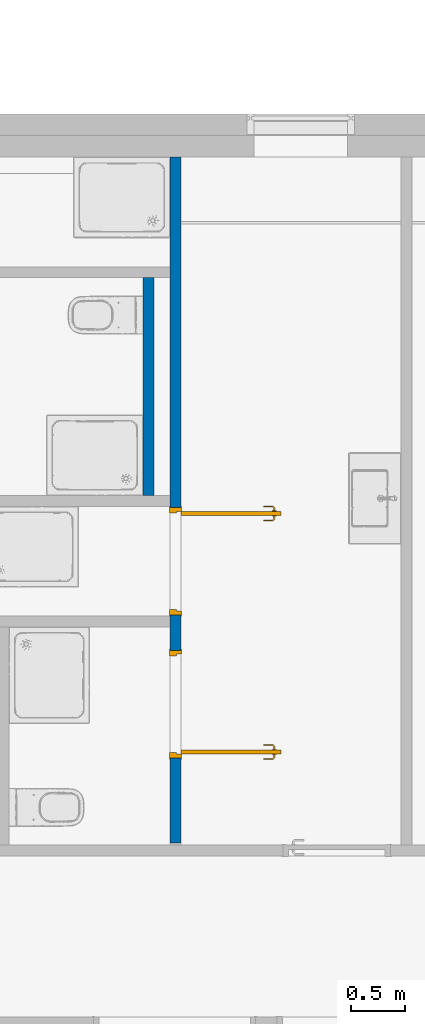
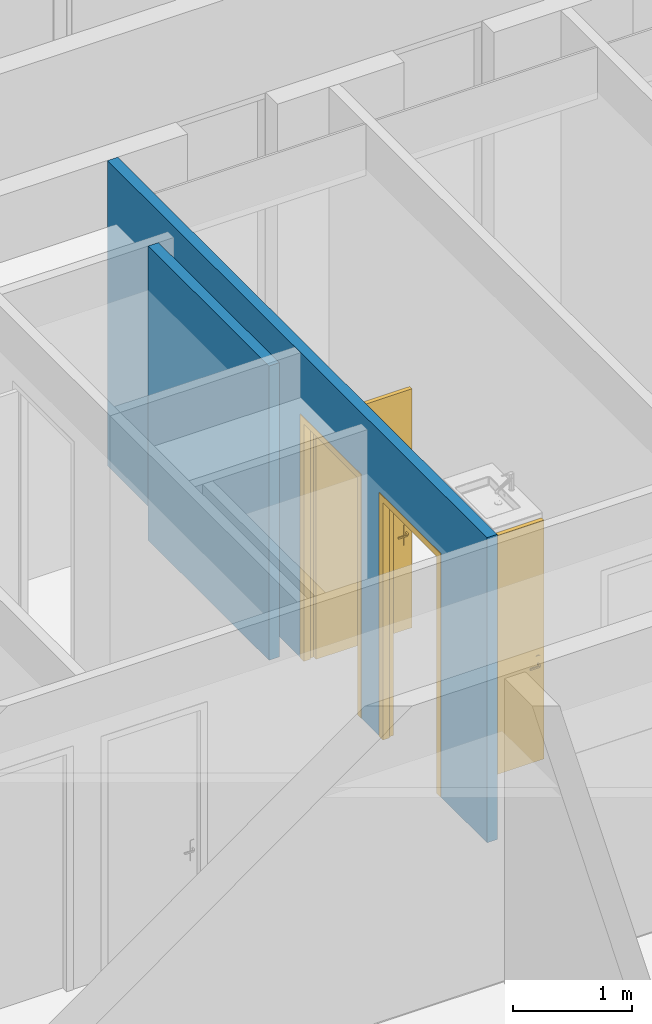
# One storey, part 111 of 240: 2 doors, 2 walls, 2 openings.
"""IFC2X3 building model written with IfcOpenShell, lengths in centimetres."""

from ifc_helpers import new_model, entity, si_unit, converted_unit, derived_unit, direction, frame, frame_2d, origin, place, context, subcontext, project, spatial, polyline, rectangle, extrude, clip, bounded_halfspace, faceted_brep, source, transform, mapped, material, material_list, layer, layer_set, layer_usage, type_object, type_shapes, element, fill, save


model = new_model("IFC2X3")

# Units and contexts
model_context = context("Model", 3, precision=0.001, world=origin(), true_north=direction((6.12303176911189e-17, 1.0)))
body_context = subcontext(model_context, "Body", "Model", "MODEL_VIEW")
ifc_project = project(units=[si_unit("LENGTHUNIT", "METRE", prefix="CENTI"), si_unit("AREAUNIT", "SQUARE_METRE"), si_unit("VOLUMEUNIT", "CUBIC_METRE"), converted_unit("PLANEANGLEUNIT", "DEGREE", entity("IfcRatioMeasure", 0.0174532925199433), si_unit("PLANEANGLEUNIT", "RADIAN"), dimensions=[0, 0, 0, 0, 0, 0, 0]), si_unit("MASSUNIT", "GRAM", prefix="KILO"), derived_unit("MASSDENSITYUNIT", [(si_unit("MASSUNIT", "GRAM", prefix="KILO"), 1), (si_unit("LENGTHUNIT", "METRE"), -3)]), si_unit("TIMEUNIT", "SECOND"), si_unit("FREQUENCYUNIT", "HERTZ"), si_unit("THERMODYNAMICTEMPERATUREUNIT", "DEGREE_CELSIUS"), derived_unit("THERMALTRANSMITTANCEUNIT", [(si_unit("MASSUNIT", "GRAM", prefix="KILO"), 1), (si_unit("THERMODYNAMICTEMPERATUREUNIT", "KELVIN"), -1), (si_unit("TIMEUNIT", "SECOND"), -3)]), derived_unit("VOLUMETRICFLOWRATEUNIT", [(si_unit("LENGTHUNIT", "METRE"), 3), (si_unit("TIMEUNIT", "SECOND"), -1)]), si_unit("ELECTRICCURRENTUNIT", "AMPERE"), si_unit("ELECTRICVOLTAGEUNIT", "VOLT"), si_unit("POWERUNIT", "WATT"), si_unit("FORCEUNIT", "NEWTON", prefix="KILO"), si_unit("ILLUMINANCEUNIT", "LUX"), si_unit("LUMINOUSFLUXUNIT", "LUMEN"), si_unit("LUMINOUSINTENSITYUNIT", "CANDELA"), derived_unit("USERDEFINED", [(si_unit("MASSUNIT", "GRAM", prefix="KILO"), -1), (si_unit("LENGTHUNIT", "METRE"), -2), (si_unit("TIMEUNIT", "SECOND"), 3), (si_unit("LUMINOUSFLUXUNIT", "LUMEN"), 1)]), derived_unit("LINEARVELOCITYUNIT", [(si_unit("LENGTHUNIT", "METRE"), 1), (si_unit("TIMEUNIT", "SECOND"), -1)]), si_unit("PRESSUREUNIT", "PASCAL"), derived_unit("USERDEFINED", [(si_unit("LENGTHUNIT", "METRE"), -2), (si_unit("MASSUNIT", "GRAM", prefix="KILO"), 1), (si_unit("TIMEUNIT", "SECOND"), -2)])], contexts=[model_context])

# Site, building, storey
site_placement = place(None, frame((-2781.94577612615, 7442.24238424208, 0.0)))
site = spatial("IfcSite", under=ifc_project, at=site_placement, Name="Default", CompositionType="ELEMENT")
building_placement = place(site_placement, origin())
building = spatial("IfcBuilding", under=site, at=building_placement, CompositionType="ELEMENT")
storey_placement = place(building_placement, origin())
storey = spatial("IfcBuildingStorey", under=building, at=storey_placement, Name="N00 - COO", CompositionType="ELEMENT", Elevation=0.0)

# Wall
ifc_material_1 = material(Name="01 - Enduit/Plâtre")
ifc_layer_1 = layer(ifc_material_1, 1.3)
ifc_material_2 = material(Name="00 - Isolant")
ifc_layer_2 = layer(ifc_material_2, 7.4)
ifc_layer_3 = layer(ifc_material_1, 1.3)
ifc_layer_set = layer_set([ifc_layer_1, ifc_layer_2, ifc_layer_3], Name="Mur de base:06 - cloisons - Ba13 10cm")
ifc_layer_usage_1 = layer_usage(ifc_layer_set, "AXIS2", "NEGATIVE", 5.0)
wall_type = type_object("IfcWallType", Name="Mur de base:06 - cloisons - Ba13 10cm", PredefinedType="STANDARD", material=ifc_layer_set)
wall_1_placement = place(building_placement, frame((-10124.4998776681, -1222.0, 0.0), z_axis=(0.0, 0.0, 1.0), x_axis=(0.0, -1.0, 0.0)))
element("IfcWallStandardCase", 1, at=wall_1_placement, inside=storey, type_object=wall_type, material=ifc_layer_usage_1, Name="Mur de base:06 - cloisons - Ba13 10cm", ObjectType="Mur de base:06 - cloisons - Ba13 10cm", context=body_context, shape_type="SweptSolid", body=[
    extrude(rectangle(XDim=203.0, YDim=10.0000000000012, at=frame_2d((101.5, 0.0), x_axis=(-1.0, 0.0))), origin(), (0.0, 0.0, 1.0), 302.0),
])

# Wall, openings, doors
ifc_layer_usage_2 = layer_usage(ifc_layer_set, "AXIS2", "NEGATIVE", 5.0)
wall_2_placement = place(building_placement, frame((-10099.4998776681, -1110.0, 0.0), z_axis=(0.0, 0.0, 1.0), x_axis=(0.0, -1.0, 0.0)))
wall_2 = element("IfcWallStandardCase", 2, at=wall_2_placement, inside=storey, type_object=wall_type, material=ifc_layer_usage_2, Name="Mur de base:06 - cloisons - Ba13 10cm", ObjectType="Mur de base:06 - cloisons - Ba13 10cm", context=body_context, shape_type="Clipping", body=[
    clip(extrude(rectangle(XDim=638.000000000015, YDim=10.0000000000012, at=frame_2d((319.000000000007, 1.06581410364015e-14), x_axis=(-1.0, 0.0))), origin(), (0.0, 0.0, 1.0), 313.0), bounded_halfspace(frame((0.0, -5.0, 0.0), z_axis=(1.0, 0.0, 0.0), x_axis=(0.0, 1.0, 0.0)), True, frame((0.0, -5.0, 0.0), z_axis=(1.0, 0.0, 0.0), x_axis=(0.0, 1.0, 0.0)), polyline([(0.0, 0.0), (10.0, 0.0), (10.0, 313.0), (0.0, 313.0), (0.0, 0.0)]))),
])
opening_1_placement = place(wall_2_placement, frame((459.0, -5.0, 0.0)))
opening_1 = element("IfcOpeningElement", 3, at=opening_1_placement, cuts=wall_2, Name="Int. Simple:PP simple (0.93m x 2.50m):1", ObjectType="Opening", context=body_context, shape_type="SweptSolid", body=[
    extrude(rectangle(XDim=248.500000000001, YDim=99.9999999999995, at=frame_2d((124.250000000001, 49.9999999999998), x_axis=(1.0, 0.0))), frame((0.0, 0.0, 0.0), z_axis=(0.0, 1.0, 0.0), x_axis=(0.0, 0.0, 1.0)), (0.0, 0.0, 1.0), 10.0),
])
opening_2_placement = place(wall_2_placement, frame((326.0, -5.0, 0.0)))
opening_2 = element("IfcOpeningElement", 4, at=opening_2_placement, cuts=wall_2, Name="Int. Simple:PP simple (0.93m x 2.50m):1", ObjectType="Opening", context=body_context, shape_type="SweptSolid", body=[
    extrude(rectangle(XDim=248.500000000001, YDim=99.9999999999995, at=frame_2d((124.250000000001, 49.9999999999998), x_axis=(1.0, 0.0))), frame((0.0, 0.0, 0.0), z_axis=(0.0, 1.0, 0.0), x_axis=(0.0, 0.0, 1.0)), (0.0, 0.0, 1.0), 10.0),
])
ifc_material_3 = material(Name="Finition Peinture - Blanc satiné")
ifc_material_4 = material(Name="Bois - Panneau de porte")
ifc_material_5 = material(Name="Bois - Cadre de porte")
ifc_material_list_1 = material_list([ifc_material_3, ifc_material_4, ifc_material_5])
ifc_material_list_2 = material_list([ifc_material_3, ifc_material_4, ifc_material_5])
door_style_1 = type_object("IfcDoorStyle", Name="PP simple (0.93m x 2.50m)", ConstructionType="NOTDEFINED", OperationType="SINGLE_SWING_RIGHT", ParameterTakesPrecedence=False, Sizeable=False, material=ifc_material_list_2)
shared_shape_1 = source(origin(), body_context, "Body", "Brep", [
    faceted_brep([(10.0, -89.0, 87.0), (10.0, -89.0, 108.0), (10.0, -88.0352761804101, 108.399601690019), (10.0, -87.0, 108.535898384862), (10.0, -85.96472381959, 108.399601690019), (10.0, -85.0, 108.0), (10.0, -85.0, 87.0), (10.0, -85.9647238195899, 86.6003983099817), (10.0, -87.0, 86.464101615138), (10.0, -88.03527618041, 86.6003983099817), (10.500000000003, -89.0, 108.0), (10.500000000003, -89.0, 87.0), (10.500000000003, -88.03527618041, 86.6003983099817), (10.500000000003, -87.0, 86.464101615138), (10.500000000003, -85.9647238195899, 86.6003983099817), (10.500000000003, -85.0, 87.0), (10.500000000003, -85.0, 108.0), (10.500000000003, -85.96472381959, 108.399601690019), (10.500000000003, -87.0, 108.535898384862), (10.500000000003, -88.0352761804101, 108.399601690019)], [[[0, 1, 2, 3, 4, 5, 6, 7, 8, 9]], [[10, 11, 12, 13, 14, 15, 16, 17, 18, 19]], [[9, 12, 11, 0]], [[8, 13, 12, 9]], [[7, 14, 13, 8]], [[7, 6, 15, 14]], [[15, 6, 5, 16]], [[4, 17, 16, 5]], [[3, 18, 17, 4]], [[2, 19, 18, 3]], [[2, 1, 10, 19]], [[11, 10, 1, 0]]]),
    faceted_brep([(14.500000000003, -89.0, 87.0), (14.500000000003, -89.0, 108.0), (14.500000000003, -88.0352761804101, 108.399601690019), (14.500000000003, -87.0, 108.535898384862), (14.500000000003, -85.96472381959, 108.399601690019), (14.500000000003, -85.0, 108.0), (14.500000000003, -85.0, 87.0), (14.500000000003, -85.9647238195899, 86.6003983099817), (14.500000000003, -87.0, 86.464101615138), (14.500000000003, -88.03527618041, 86.6003983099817), (15.0, -87.0, 108.535898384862), (15.0, -88.0352761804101, 108.399601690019), (15.0, -89.0, 108.0), (15.0, -89.0, 87.0), (15.0, -88.03527618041, 86.6003983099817), (15.0, -87.0, 86.464101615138), (15.0, -85.9647238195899, 86.6003983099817), (15.0, -85.0, 87.0), (15.0, -85.0, 108.0), (15.0, -85.96472381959, 108.399601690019)], [[[0, 1, 2, 3, 4, 5, 6, 7, 8, 9]], [[10, 11, 12, 13, 14, 15, 16, 17, 18, 19]], [[4, 19, 18, 5]], [[3, 10, 19, 4]], [[2, 11, 10, 3]], [[2, 1, 12, 11]], [[13, 12, 1, 0]], [[9, 14, 13, 0]], [[8, 15, 14, 9]], [[7, 16, 15, 8]], [[7, 6, 17, 16]], [[17, 6, 5, 18]]]),
    faceted_brep([(10.0, -86.7974701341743, 100.778044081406), (10.0, -87.2025298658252, 100.778044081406), (10.0, -87.6000000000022, 100.699999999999), (10.0, -87.6000000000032, 99.2999999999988), (10.0, -87.202529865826, 99.221955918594), (10.0, -86.7974701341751, 99.2219559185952), (10.0, -86.3999999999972, 99.3000000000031), (10.0, -86.3999999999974, 100.7), (7.39954245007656, -87.2025298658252, 100.778044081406), (7.2349049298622, -87.6000000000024, 100.7), (7.56732368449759, -86.7974701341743, 100.778044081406), (6.19971379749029, -85.4298602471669, 100.778044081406), (5.79465406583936, -85.5976414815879, 100.778044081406), (7.73196120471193, -86.3999999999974, 100.7), (7.731961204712, -86.3999999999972, 99.3000000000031), (7.56732368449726, -86.7974701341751, 99.2219559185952), (7.39954245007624, -87.202529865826, 99.221955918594), (5.79465406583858, -85.5976414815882, 99.221955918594), (6.1997137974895, -85.4298602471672, 99.2219559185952), (7.2349049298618, -87.6000000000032, 99.2999999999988), (5.39718393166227, -85.7622790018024, 100.7), (6.59718393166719, -85.2652227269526, 100.7), (6.59718393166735, -85.2652227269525, 99.3000000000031), (5.39718393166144, -85.7622790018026, 99.2999999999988), (5.39718393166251, -76.9981359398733, 100.7), (5.79465406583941, -76.9981359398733, 100.778044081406), (6.19971379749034, -76.9981359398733, 100.778044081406), (6.59718393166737, -76.9981359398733, 100.699999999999), (6.59718393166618, -76.9981359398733, 99.3000000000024), (6.19971379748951, -76.9981359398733, 99.2219559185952), (5.7946540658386, -76.9981359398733, 99.221955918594), (5.39718393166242, -76.9981359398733, 99.2999999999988), (5.99718393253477, -81.2139980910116, 100.78786867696), (5.39718393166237, -81.7692302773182, 100.7), (6.59718393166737, -81.1316793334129, 100.7), (6.59718393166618, -81.1316793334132, 99.3000000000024), (5.99718392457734, -81.2139981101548, 99.2121313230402), (5.39718393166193, -81.7692310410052, 99.2999999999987)], [[[0, 1, 2, 3, 4, 5, 6, 7]], [[2, 1, 8, 9]], [[1, 0, 10, 11, 12, 8]], [[0, 7, 13, 10]], [[14, 13, 7, 6]], [[5, 15, 14, 6]], [[5, 4, 16, 17, 18, 15]], [[3, 19, 16, 4]], [[9, 19, 3, 2]], [[9, 8, 12, 20]], [[10, 13, 21, 11]], [[22, 21, 13, 14]], [[14, 15, 18, 22]], [[16, 19, 23, 17]], [[20, 23, 19, 9]], [[24, 25, 26, 27, 28, 29, 30, 31]], [[32, 25, 33]], [[33, 25, 24]], [[33, 20, 12]], [[11, 34, 32]], [[34, 11, 21]], [[27, 26, 34]], [[32, 26, 25]], [[32, 34, 26]], [[32, 33, 12]], [[11, 32, 12]], [[21, 22, 35, 28, 27, 34]], [[36, 29, 35]], [[30, 36, 37]], [[18, 35, 22]], [[29, 28, 35]], [[30, 37, 31]], [[37, 17, 23]], [[36, 17, 37]], [[36, 18, 17]], [[36, 35, 18]], [[29, 36, 30]], [[23, 20, 33, 24, 31, 37]]]),
    faceted_brep([(15.0, -86.7974701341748, 99.2219559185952), (15.0, -87.2025298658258, 99.221955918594), (15.0, -87.6000000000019, 99.2999999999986), (15.0, -87.6000000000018, 100.7), (15.0, -87.2025298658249, 100.778044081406), (15.0, -86.797470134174, 100.778044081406), (15.0, -86.3999999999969, 100.7), (15.0, -86.3999999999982, 99.3000000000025), (17.2485204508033, -86.399999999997, 100.7), (17.2485204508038, -86.399999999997, 99.3000000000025), (17.4131579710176, -86.7974701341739, 100.778044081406), (17.5809392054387, -87.2025298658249, 100.778044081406), (19.1995784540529, -85.5838906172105, 100.778044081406), (18.794518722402, -85.4161093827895, 100.778044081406), (17.745576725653, -87.6000000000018, 100.7), (17.7455767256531, -87.6000000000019, 99.2999999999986), (17.5809392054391, -87.2025298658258, 99.221955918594), (17.413157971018, -86.7974701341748, 99.2219559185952), (18.7945187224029, -85.4161093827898, 99.2219559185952), (19.1995784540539, -85.5838906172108, 99.221955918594), (18.397048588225, -85.2514718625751, 100.7), (18.3970485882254, -85.2514718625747, 99.3000000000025), (19.5970485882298, -85.7485281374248, 100.7), (19.59704858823, -85.7485281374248, 99.2999999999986), (18.7945187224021, -76.9954216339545, 100.778044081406), (19.199578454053, -76.9954216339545, 100.778044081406), (19.59704858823, -76.9954216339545, 100.7), (19.597048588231, -76.9954216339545, 99.2999999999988), (19.1995784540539, -76.9954216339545, 99.221955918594), (18.7945187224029, -76.9954216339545, 99.2219559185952), (18.397048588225, -76.9954216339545, 99.3000000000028), (18.3970485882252, -76.9954216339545, 100.7), (18.3970485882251, -81.1234467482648, 100.7), (18.3970485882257, -81.1234479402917, 99.3000000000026), (18.9970485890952, -81.2057655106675, 100.78786867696), (19.5970485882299, -81.7554794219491, 100.7), (19.597048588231, -81.75547956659, 99.2999999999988), (18.9970485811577, -81.2057654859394, 99.2121313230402)], [[[0, 1, 2, 3, 4, 5, 6, 7]], [[8, 9, 7, 6]], [[5, 10, 8, 6]], [[5, 4, 11, 12, 13, 10]], [[3, 14, 11, 4]], [[14, 3, 2, 15]], [[2, 1, 16, 15]], [[1, 0, 17, 18, 19, 16]], [[0, 7, 9, 17]], [[20, 21, 9, 8]], [[8, 10, 13, 20]], [[14, 22, 12, 11]], [[23, 22, 14, 15]], [[15, 16, 19, 23]], [[17, 9, 21, 18]], [[24, 25, 26, 27, 28, 29, 30, 31]], [[21, 20, 32, 31, 30, 33]], [[34, 24, 32]], [[25, 34, 35]], [[13, 32, 20]], [[24, 31, 32]], [[25, 35, 26]], [[35, 12, 22]], [[34, 12, 35]], [[34, 13, 12]], [[34, 32, 13]], [[24, 34, 25]], [[22, 23, 36, 27, 26, 35]], [[37, 28, 36]], [[36, 28, 27]], [[36, 23, 19]], [[18, 33, 37]], [[33, 18, 21]], [[30, 29, 33]], [[37, 29, 28]], [[37, 33, 29]], [[37, 36, 19]], [[18, 37, 19]]]),
    faceted_brep([(14.5000000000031, -93.0, 245.0), (14.5000000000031, -93.0, 0.0), (14.5000000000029, 0.0, 0.0), (14.5000000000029, 0.0, 245.0), (10.5000000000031, -93.0, 245.0), (10.5000000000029, 0.0, 245.0), (10.5000000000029, 0.0, 0.0), (10.5000000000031, -93.0, 0.0)], [[[0, 1, 2, 3]], [[4, 5, 6, 7]], [[3, 5, 4, 0]], [[2, 6, 5, 3]], [[1, 7, 6, 2]], [[0, 4, 7, 1]]]),
    faceted_brep([(107.0, 10.0, 0.0), (107.0, 0.0, 0.0), (108.500000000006, 0.0, 0.0), (108.500000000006, -0.500000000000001, 0.0), (103.500000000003, -0.500000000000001, 0.0), (103.500000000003, 4.0, 0.0), (102.0, 4.0, 0.0), (102.0, 10.5000000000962, 0.0), (108.500000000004, 10.5000000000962, 0.0), (108.500000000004, 10.0, 0.0), (107.0, 10.0, 248.500000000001), (107.0, 0.0, 248.500000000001), (108.500000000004, 10.0, 250.0), (5.50000000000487, 10.0, 250.0), (5.50000000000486, 10.0, 0.0), (7.0, 10.0, 0.0), (7.0, 10.0, 248.500000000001), (102.0, 4.0, 243.5), (102.0, 10.5000000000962, 243.5), (103.500000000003, 4.0, 245.0), (10.5000000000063, 4.0, 245.0), (10.5000000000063, 4.0, 0.0), (12.0, 4.0, 0.0), (12.0, 4.0, 243.5), (7.0, 0.0, 0.0), (7.0, 0.0, 248.500000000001), (5.50000000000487, 10.5000000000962, 0.0), (12.0, 10.5000000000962, 0.0), (10.5000000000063, -0.500000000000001, 0.0), (5.5000000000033, -0.500000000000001, 0.0), (5.5000000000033, 0.0, 0.0), (12.0, 10.5000000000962, 243.5), (103.500000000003, -0.500000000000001, 245.0), (108.500000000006, -0.500000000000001, 250.0), (5.5000000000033, -0.500000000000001, 250.0), (10.5000000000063, -0.500000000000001, 245.0), (108.500000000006, 0.0, 250.0), (5.50000000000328, 0.0, 250.0), (108.500000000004, 10.5000000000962, 250.0), (5.50000000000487, 10.5000000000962, 250.0)], [[[0, 1, 2, 3, 4, 5, 6, 7, 8, 9]], [[0, 10, 11, 1]], [[9, 12, 13, 14, 15, 16, 10, 0]], [[7, 6, 17, 18]], [[5, 19, 20, 21, 22, 23, 17, 6]], [[16, 15, 24, 25]], [[15, 14, 26, 27, 22, 21, 28, 29, 30, 24]], [[23, 22, 27, 31]], [[10, 16, 25, 11]], [[17, 23, 31, 18]], [[5, 4, 32, 19]], [[3, 33, 34, 29, 28, 35, 32, 4]], [[2, 36, 33, 3]], [[1, 11, 25, 24, 30, 37, 36, 2]], [[8, 38, 12, 9]], [[7, 18, 31, 27, 26, 39, 38, 8]], [[35, 28, 21, 20]], [[37, 30, 29, 34]], [[39, 26, 14, 13]], [[32, 35, 20, 19]], [[36, 37, 34, 33]], [[38, 39, 13, 12]]]),
])
type_shapes(door_style_1, [shared_shape_1])
door_1_placement = place(opening_1_placement, frame((107.0, 10.0, 0.0), z_axis=(0.0, 0.0, 1.0), x_axis=(-1.0, 0.0, 0.0)))
door_1 = element("IfcDoor", 5, at=door_1_placement, inside=storey, type_object=door_style_1, material=ifc_material_list_1, Name="Int. Simple:PP simple (0.93m x 2.50m)", ObjectType="Int. Simple:PP simple (0.93m x 2.50m)", OverallHeight=248.500000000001, OverallWidth=99.9999999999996, context=body_context, shape_type="MappedRepresentation", body=[
    mapped(shared_shape_1, transform((0.0, 0.0, 0.0), scale=1.0)),
])
fill(opening_1, door_1)
ifc_material_list_3 = material_list([ifc_material_3, ifc_material_4, ifc_material_5])
ifc_material_list_4 = material_list([ifc_material_3, ifc_material_4, ifc_material_5])
door_style_2 = type_object("IfcDoorStyle", Name="PP simple (0.93m x 2.50m)", ConstructionType="NOTDEFINED", OperationType="SINGLE_SWING_LEFT", ParameterTakesPrecedence=False, Sizeable=False, material=ifc_material_list_4)
shared_shape_2 = source(origin(), body_context, "Body", "Brep", [
    faceted_brep([(97.0, -85.9647238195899, 86.6003983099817), (97.0, -85.0, 87.0), (97.0, -85.0, 108.0), (97.0, -85.96472381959, 108.399601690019), (97.0, -87.0, 108.535898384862), (97.0, -88.0352761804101, 108.399601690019), (97.0, -89.0, 108.0), (97.0, -89.0, 87.0), (97.0, -88.03527618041, 86.6003983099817), (97.0, -87.0, 86.464101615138), (96.5000000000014, -85.96472381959, 108.399601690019), (96.5000000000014, -85.0, 108.0), (96.5000000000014, -85.0, 87.0), (96.5000000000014, -85.9647238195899, 86.6003983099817), (96.5000000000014, -87.0, 86.464101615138), (96.5000000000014, -88.03527618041, 86.6003983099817), (96.5000000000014, -89.0, 87.0), (96.5000000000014, -89.0, 108.0), (96.5000000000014, -88.0352761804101, 108.399601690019), (96.5000000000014, -87.0, 108.535898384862)], [[[0, 1, 2, 3, 4, 5, 6, 7, 8, 9]], [[10, 11, 12, 13, 14, 15, 16, 17, 18, 19]], [[16, 15, 8, 7]], [[8, 15, 14, 9]], [[14, 13, 0, 9]], [[13, 12, 1, 0]], [[2, 1, 12, 11]], [[11, 10, 3, 2]], [[3, 10, 19, 4]], [[19, 18, 5, 4]], [[18, 17, 6, 5]], [[7, 6, 17, 16]]]),
    faceted_brep([(92.5000000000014, -85.9647238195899, 86.6003983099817), (92.5000000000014, -85.0, 87.0), (92.5000000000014, -85.0, 108.0), (92.5000000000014, -85.96472381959, 108.399601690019), (92.5000000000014, -87.0, 108.535898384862), (92.5000000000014, -88.0352761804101, 108.399601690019), (92.5000000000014, -89.0, 108.0), (92.5000000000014, -89.0, 87.0), (92.5000000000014, -88.03527618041, 86.6003983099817), (92.5000000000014, -87.0, 86.464101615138), (92.0, -85.96472381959, 108.399601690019), (92.0, -85.0, 108.0), (92.0, -85.0, 87.0), (92.0, -85.9647238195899, 86.6003983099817), (92.0, -87.0, 86.464101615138), (92.0, -88.03527618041, 86.6003983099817), (92.0, -89.0, 87.0), (92.0, -89.0, 108.0), (92.0, -88.0352761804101, 108.399601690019), (92.0, -87.0, 108.535898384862)], [[[0, 1, 2, 3, 4, 5, 6, 7, 8, 9]], [[10, 11, 12, 13, 14, 15, 16, 17, 18, 19]], [[11, 10, 3, 2]], [[3, 10, 19, 4]], [[19, 18, 5, 4]], [[18, 17, 6, 5]], [[7, 6, 17, 16]], [[16, 15, 8, 7]], [[8, 15, 14, 9]], [[14, 13, 0, 9]], [[13, 12, 1, 0]], [[2, 1, 12, 11]]]),
    faceted_brep([(97.0, -87.2025298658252, 100.778044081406), (97.0, -86.7974701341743, 100.778044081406), (97.0, -86.3999999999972, 100.699999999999), (97.0, -86.3999999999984, 99.3000000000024), (97.0, -86.7974701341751, 99.2219559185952), (97.0, -87.202529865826, 99.221955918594), (97.0, -87.6000000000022, 99.2999999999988), (97.0, -87.6000000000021, 100.7), (99.7650950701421, -87.6000000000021, 100.7), (99.6004575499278, -87.2025298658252, 100.778044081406), (101.205345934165, -85.5976414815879, 100.778044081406), (100.800286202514, -85.4298602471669, 100.778044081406), (99.4326763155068, -86.7974701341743, 100.778044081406), (99.2680387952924, -86.3999999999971, 100.7), (99.2680387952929, -86.3999999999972, 99.3000000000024), (99.4326763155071, -86.7974701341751, 99.2219559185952), (100.800286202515, -85.4298602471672, 99.2219559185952), (101.205345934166, -85.5976414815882, 99.221955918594), (99.6004575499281, -87.202529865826, 99.221955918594), (99.7650950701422, -87.6000000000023, 99.2999999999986), (101.602816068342, -85.7622790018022, 100.7), (100.402816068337, -85.2652227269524, 100.7), (100.402816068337, -85.2652227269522, 99.3000000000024), (101.602816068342, -85.7622790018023, 99.2999999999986), (101.602816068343, -76.9981359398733, 99.2999999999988), (101.205345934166, -76.9981359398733, 99.221955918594), (100.800286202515, -76.9981359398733, 99.2219559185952), (100.402816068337, -76.9981359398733, 99.3000000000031), (100.402816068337, -76.9981359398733, 100.7), (100.800286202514, -76.9981359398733, 100.778044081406), (101.205345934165, -76.9981359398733, 100.778044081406), (101.602816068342, -76.9981359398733, 100.699999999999), (101.602816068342, -81.7692302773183, 100.7), (101.00281606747, -81.2139980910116, 100.78786867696), (100.402816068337, -81.1316793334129, 100.7), (100.402816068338, -81.1316793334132, 99.3000000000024), (101.002816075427, -81.2139981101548, 99.2121313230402), (101.602816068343, -81.7692299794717, 99.2999999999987)], [[[0, 1, 2, 3, 4, 5, 6, 7]], [[8, 9, 0, 7]], [[9, 10, 11, 12, 1, 0]], [[12, 13, 2, 1]], [[3, 2, 13, 14]], [[14, 15, 4, 3]], [[15, 16, 17, 18, 5, 4]], [[18, 19, 6, 5]], [[7, 6, 19, 8]], [[20, 10, 9, 8]], [[11, 21, 13, 12]], [[14, 13, 21, 22]], [[22, 16, 15, 14]], [[17, 23, 19, 18]], [[8, 19, 23, 20]], [[24, 25, 26, 27, 28, 29, 30, 31]], [[32, 30, 33]], [[31, 30, 32]], [[10, 20, 32]], [[33, 34, 11]], [[21, 11, 34]], [[34, 29, 28]], [[30, 29, 33]], [[29, 34, 33]], [[10, 32, 33]], [[10, 33, 11]], [[22, 21, 34, 28, 27, 35]], [[35, 26, 36]], [[37, 36, 25]], [[22, 35, 16]], [[35, 27, 26]], [[24, 37, 25]], [[23, 17, 37]], [[37, 17, 36]], [[17, 16, 36]], [[16, 35, 36]], [[25, 36, 26]], [[20, 23, 37, 24, 31, 32]]]),
    faceted_brep([(92.0, -87.2025298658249, 100.778044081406), (92.0, -87.6000000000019, 100.7), (92.0, -87.6000000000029, 99.2999999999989), (92.0, -87.2025298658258, 99.221955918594), (92.0, -86.7974701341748, 99.2219559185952), (92.0, -86.399999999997, 99.3000000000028), (92.0, -86.3999999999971, 100.7), (92.0, -86.797470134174, 100.778044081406), (89.7514795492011, -86.399999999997, 99.3000000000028), (89.751479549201, -86.399999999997, 100.7), (89.5868420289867, -86.7974701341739, 100.778044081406), (88.2054812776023, -85.4161093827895, 100.778044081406), (87.8004215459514, -85.5838906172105, 100.778044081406), (89.4190607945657, -87.2025298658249, 100.778044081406), (89.2544232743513, -87.6000000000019, 100.7), (89.2544232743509, -87.6000000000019, 99.2999999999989), (89.4190607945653, -87.2025298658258, 99.221955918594), (87.8004215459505, -85.5838906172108, 99.221955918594), (88.2054812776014, -85.4161093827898, 99.2219559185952), (89.5868420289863, -86.7974701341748, 99.2219559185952), (88.6029514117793, -85.2514718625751, 99.3000000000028), (88.6029514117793, -85.2514718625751, 100.7), (87.4029514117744, -85.7485281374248, 100.7), (87.4029514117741, -85.7485281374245, 99.2999999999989), (88.6029514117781, -76.9954216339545, 99.3000000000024), (88.2054812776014, -76.9954216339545, 99.2219559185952), (87.8004215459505, -76.9954216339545, 99.221955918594), (87.4029514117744, -76.9954216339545, 99.2999999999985), (87.4029514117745, -76.9954216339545, 100.7), (87.8004215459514, -76.9954216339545, 100.778044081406), (88.2054812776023, -76.9954216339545, 100.778044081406), (88.6029514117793, -76.9954216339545, 100.7), (88.6029514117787, -81.1234479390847, 99.3000000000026), (88.6029514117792, -81.1234467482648, 100.7), (88.0029514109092, -81.2057655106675, 100.78786867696), (87.4029514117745, -81.755479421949, 100.7), (87.4029514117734, -81.75547956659, 99.2999999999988), (88.0029514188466, -81.2057654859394, 99.2121313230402)], [[[0, 1, 2, 3, 4, 5, 6, 7]], [[6, 5, 8, 9]], [[9, 10, 7, 6]], [[10, 11, 12, 13, 0, 7]], [[13, 14, 1, 0]], [[2, 1, 14, 15]], [[15, 16, 3, 2]], [[16, 17, 18, 19, 4, 3]], [[19, 8, 5, 4]], [[9, 8, 20, 21]], [[21, 11, 10, 9]], [[12, 22, 14, 13]], [[15, 14, 22, 23]], [[23, 17, 16, 15]], [[18, 20, 8, 19]], [[24, 25, 26, 27, 28, 29, 30, 31]], [[21, 20, 32, 24, 31, 33]], [[33, 30, 34]], [[35, 34, 29]], [[21, 33, 11]], [[33, 31, 30]], [[28, 35, 29]], [[22, 12, 35]], [[35, 12, 34]], [[12, 11, 34]], [[11, 33, 34]], [[29, 34, 30]], [[22, 35, 28, 27, 36, 23]], [[36, 26, 37]], [[27, 26, 36]], [[17, 23, 36]], [[37, 32, 18]], [[20, 18, 32]], [[32, 25, 24]], [[26, 25, 37]], [[25, 32, 37]], [[17, 36, 37]], [[17, 37, 18]]]),
    faceted_brep([(92.5000000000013, -93.0, 245.0), (92.5000000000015, 0.0, 245.0), (92.5000000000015, 0.0, 0.0), (92.5000000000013, -93.0, 0.0), (96.5000000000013, -93.0, 245.0), (96.5000000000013, -93.0, 0.0), (96.5000000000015, 0.0, 0.0), (96.5000000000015, 0.0, 245.0)], [[[0, 1, 2, 3]], [[4, 5, 6, 7]], [[1, 0, 4, 7]], [[2, 1, 7, 6]], [[3, 2, 6, 5]], [[0, 3, 5, 4]]]),
    faceted_brep([(0.0, 10.0, 0.0), (-1.50000000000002, 10.0, 0.0), (-1.50000000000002, 10.5000000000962, 0.0), (5.0, 10.5000000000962, 0.0), (5.0, 4.0, 0.0), (3.50000000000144, 4.0, 0.0), (3.50000000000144, -0.500000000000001, 0.0), (-1.50000000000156, -0.500000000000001, 0.0), (-1.50000000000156, 0.0, 0.0), (0.0, 0.0, 0.0), (0.0, 0.0, 248.500000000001), (0.0, 10.0, 248.500000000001), (100.0, 10.0, 248.500000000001), (100.0, 10.0, 0.0), (101.5, 10.0, 0.0), (101.5, 10.0, 250.0), (-1.50000000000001, 10.0, 250.0), (5.0, 10.5000000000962, 243.5), (5.0, 4.0, 243.5), (95.0, 4.0, 243.5), (95.0, 4.0, 0.0), (96.499999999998, 4.0, 0.0), (96.499999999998, 4.0, 245.0), (3.50000000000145, 4.0, 245.0), (100.0, 0.0, 248.500000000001), (100.0, 0.0, 0.0), (101.500000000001, 0.0, 0.0), (101.500000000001, -0.500000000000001, 0.0), (96.499999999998, -0.500000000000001, 0.0), (95.0, 10.5000000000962, 0.0), (101.5, 10.5000000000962, 0.0), (95.0, 10.5000000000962, 243.5), (3.50000000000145, -0.500000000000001, 245.0), (96.499999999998, -0.500000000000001, 245.0), (101.500000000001, -0.500000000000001, 250.0), (-1.50000000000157, -0.500000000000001, 250.0), (-1.50000000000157, 0.0, 250.0), (101.500000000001, 0.0, 250.0), (-1.50000000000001, 10.5000000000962, 250.0), (101.5, 10.5000000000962, 250.0)], [[[0, 1, 2, 3, 4, 5, 6, 7, 8, 9]], [[0, 9, 10, 11]], [[1, 0, 11, 12, 13, 14, 15, 16]], [[3, 17, 18, 4]], [[5, 4, 18, 19, 20, 21, 22, 23]], [[12, 24, 25, 13]], [[13, 25, 26, 27, 28, 21, 20, 29, 30, 14]], [[19, 31, 29, 20]], [[11, 10, 24, 12]], [[18, 17, 31, 19]], [[5, 23, 32, 6]], [[7, 6, 32, 33, 28, 27, 34, 35]], [[8, 7, 35, 36]], [[9, 8, 36, 37, 26, 25, 24, 10]], [[2, 1, 16, 38]], [[3, 2, 38, 39, 30, 29, 31, 17]], [[33, 22, 21, 28]], [[37, 34, 27, 26]], [[39, 15, 14, 30]], [[32, 23, 22, 33]], [[36, 35, 34, 37]], [[38, 16, 15, 39]]]),
])
type_shapes(door_style_2, [shared_shape_2])
door_2_placement = place(opening_2_placement, frame((100.0, 10.0, 0.0), z_axis=(0.0, 0.0, 1.0), x_axis=(-1.0, 0.0, 0.0)))
door_2 = element("IfcDoor", 6, at=door_2_placement, inside=storey, type_object=door_style_2, material=ifc_material_list_3, Name="Int. Simple:PP simple (0.93m x 2.50m)", ObjectType="Int. Simple:PP simple (0.93m x 2.50m)", OverallHeight=248.500000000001, OverallWidth=99.9999999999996, context=body_context, shape_type="MappedRepresentation", body=[
    mapped(shared_shape_2, transform((0.0, 0.0, 0.0), scale=1.0)),
])
fill(opening_2, door_2)

save(model, "model.ifc")
